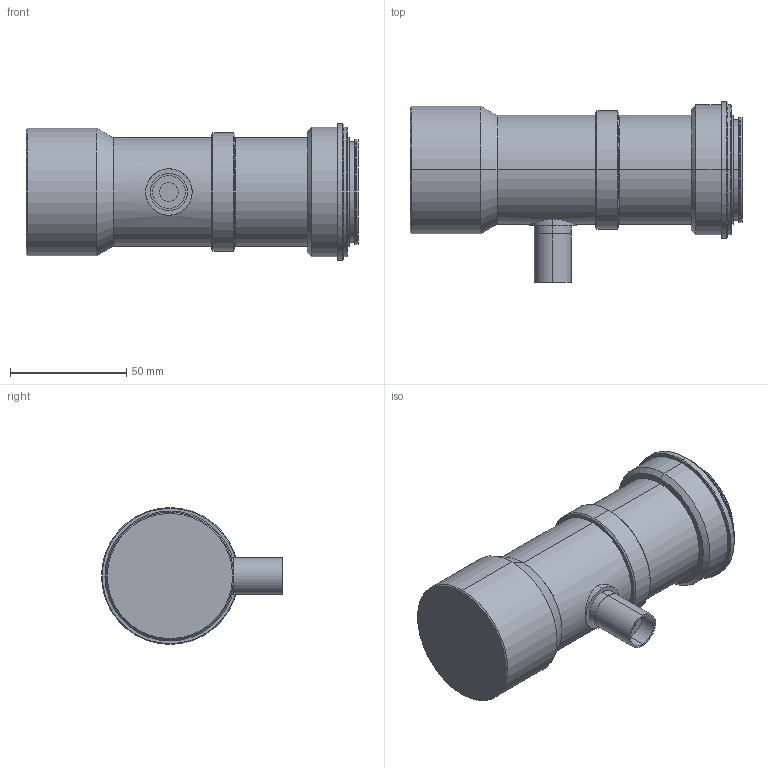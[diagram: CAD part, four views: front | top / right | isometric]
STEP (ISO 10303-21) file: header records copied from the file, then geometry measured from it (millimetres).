
FILE_DESCRIPTION (( 'STEP AP203' ), '1' );
FILE_NAME ('VS-LTC1-70CO-35_FS.STEP', '2015-07-02T05:14:44', ( 'miura_vst' ), ( '' ), 'SwSTEP 2.0', 'SolidWorks 2015', '' );
FILE_SCHEMA (( 'CONFIG_CONTROL_DESIGN' ));
Length unit declared in the file: millimetre
Products named in the file (1): VS-LTC1-70CO-35_FS
Bounding box: 143.1 x 78 x 59 mm (x, y, z)
Volume: 288614.5 mm3; surface area: 31295.2 mm2
Topology: 1 solids, 1 shells, 80 faces, 162 edges, 98 vertices
Faces by surface type: cone 34, cylinder 30, plane 16
Entity records: 2269 total; most frequent: CARTESIAN_POINT 435, DIRECTION 418, ORIENTED_EDGE 324, AXIS2_PLACEMENT_3D 177, EDGE_CURVE 162, VERTEX_POINT 98, CIRCLE 96, EDGE_LOOP 94
